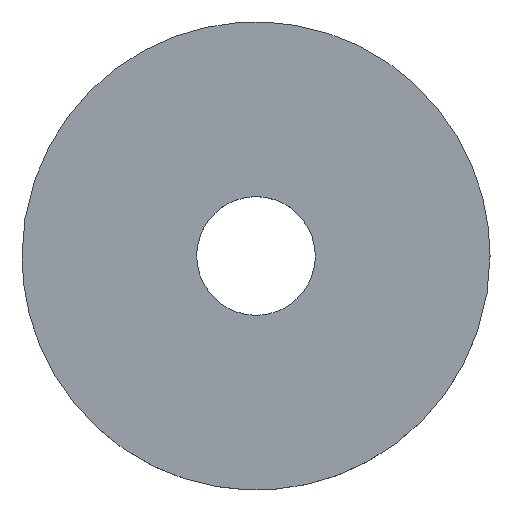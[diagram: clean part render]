
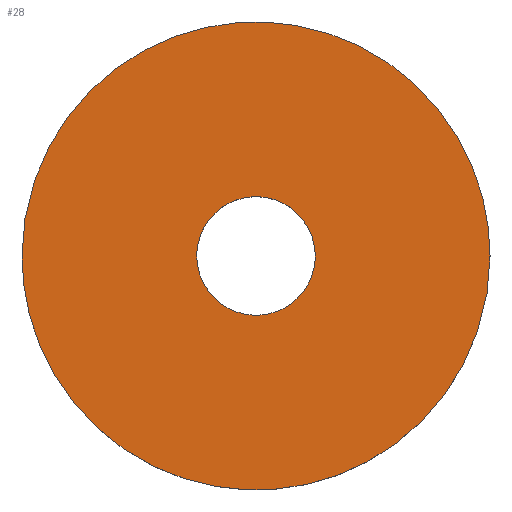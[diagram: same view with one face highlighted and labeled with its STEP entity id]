
A CAD part, top view. The second image highlights one B-rep face of the part: STEP entity #28.
In plain terms, the highlighted planar face has unit normal (0, 0, 1).
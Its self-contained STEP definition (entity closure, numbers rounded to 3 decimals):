
#24=FACE_BOUND('',#41,.T.);
#28=ADVANCED_FACE('',(#34,#24),#102,.T.);
#34=FACE_OUTER_BOUND('',#40,.T.);
#40=EDGE_LOOP('',(#54,#55));
#41=EDGE_LOOP('',(#56,#57));
#54=ORIENTED_EDGE('',*,*,#77,.F.);
#55=ORIENTED_EDGE('',*,*,#70,.F.);
#56=ORIENTED_EDGE('',*,*,#80,.F.);
#57=ORIENTED_EDGE('',*,*,#73,.F.);
#70=EDGE_CURVE('',#94,#98,#82,.T.);
#73=EDGE_CURVE('',#96,#100,#85,.T.);
#77=EDGE_CURVE('',#98,#94,#89,.T.);
#80=EDGE_CURVE('',#100,#96,#92,.T.);
#82=(
BOUNDED_CURVE()
B_SPLINE_CURVE(2,(#188,#189,#190,#191,#192),.UNSPECIFIED.,.F.,.F.)
B_SPLINE_CURVE_WITH_KNOTS((3,2,3),(-235.619,-176.715,
-117.81),.UNSPECIFIED.)
CURVE()
GEOMETRIC_REPRESENTATION_ITEM()
RATIONAL_B_SPLINE_CURVE((1.,0.707,1.,0.707,1.))
REPRESENTATION_ITEM('')
);
#85=(
BOUNDED_CURVE()
B_SPLINE_CURVE(2,(#200,#201,#202,#203,#204),.UNSPECIFIED.,.F.,.F.)
B_SPLINE_CURVE_WITH_KNOTS((3,2,3),(0.,14.923,29.845),
 .UNSPECIFIED.)
CURVE()
GEOMETRIC_REPRESENTATION_ITEM()
RATIONAL_B_SPLINE_CURVE((1.,0.707,1.,0.707,1.))
REPRESENTATION_ITEM('')
);
#89=(
BOUNDED_CURVE()
B_SPLINE_CURVE(2,(#214,#215,#216,#217,#218),.UNSPECIFIED.,.F.,.F.)
B_SPLINE_CURVE_WITH_KNOTS((3,2,3),(-117.81,-58.905,
0.),.UNSPECIFIED.)
CURVE()
GEOMETRIC_REPRESENTATION_ITEM()
RATIONAL_B_SPLINE_CURVE((1.,0.707,1.,0.707,1.))
REPRESENTATION_ITEM('')
);
#92=(
BOUNDED_CURVE()
B_SPLINE_CURVE(2,(#226,#227,#228,#229,#230),.UNSPECIFIED.,.F.,.F.)
B_SPLINE_CURVE_WITH_KNOTS((3,2,3),(29.845,44.768,59.69),
 .UNSPECIFIED.)
CURVE()
GEOMETRIC_REPRESENTATION_ITEM()
RATIONAL_B_SPLINE_CURVE((1.,0.707,1.,0.707,1.))
REPRESENTATION_ITEM('')
);
#94=VERTEX_POINT('',#180);
#96=VERTEX_POINT('',#182);
#98=VERTEX_POINT('',#184);
#100=VERTEX_POINT('',#186);
#102=PLANE('',#128);
#128=AXIS2_PLACEMENT_3D('',#158,#133,$);
#133=DIRECTION('',(0.,0.,1.));
#158=CARTESIAN_POINT('',(46.875,-46.875,-3.));
#180=CARTESIAN_POINT('',(37.5,0.,-3.));
#182=CARTESIAN_POINT('',(9.5,0.,-3.));
#184=CARTESIAN_POINT('',(-37.5,0.,-3.));
#186=CARTESIAN_POINT('',(-9.5,0.,-3.));
#188=CARTESIAN_POINT('',(37.5,0.,-3.));
#189=CARTESIAN_POINT('',(37.5,-37.5,-3.));
#190=CARTESIAN_POINT('',(0.,-37.5,-3.));
#191=CARTESIAN_POINT('',(-37.5,-37.5,-3.));
#192=CARTESIAN_POINT('',(-37.5,0.,-3.));
#200=CARTESIAN_POINT('',(9.5,0.,-3.));
#201=CARTESIAN_POINT('',(9.5,9.5,-3.));
#202=CARTESIAN_POINT('',(0.,9.5,-3.));
#203=CARTESIAN_POINT('',(-9.5,9.5,-3.));
#204=CARTESIAN_POINT('',(-9.5,0.,-3.));
#214=CARTESIAN_POINT('',(-37.5,0.,-3.));
#215=CARTESIAN_POINT('',(-37.5,37.5,-3.));
#216=CARTESIAN_POINT('',(0.,37.5,-3.));
#217=CARTESIAN_POINT('',(37.5,37.5,-3.));
#218=CARTESIAN_POINT('',(37.5,0.,-3.));
#226=CARTESIAN_POINT('',(-9.5,0.,-3.));
#227=CARTESIAN_POINT('',(-9.5,-9.5,-3.));
#228=CARTESIAN_POINT('',(0.,-9.5,-3.));
#229=CARTESIAN_POINT('',(9.5,-9.5,-3.));
#230=CARTESIAN_POINT('',(9.5,0.,-3.));
